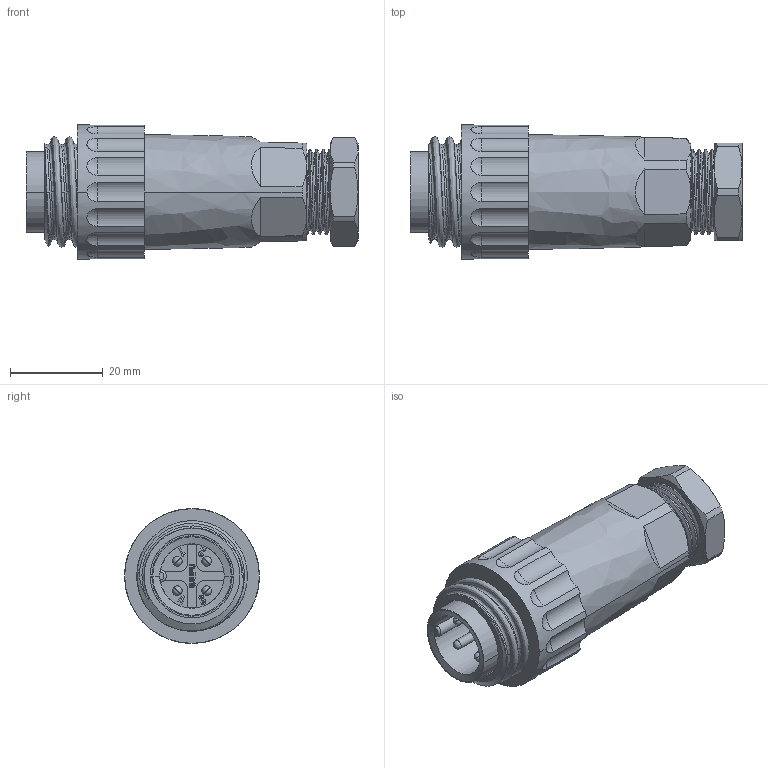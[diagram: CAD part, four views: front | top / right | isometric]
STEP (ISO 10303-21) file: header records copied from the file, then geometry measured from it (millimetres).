
FILE_DESCRIPTION((''),'2;1');
FILE_NAME('PRT0002','2015-05-09T',('Administrator'),(''),'PRO/ENGINEER BY PARAMETRIC TECHNOLOGY CORPORATION, 2009440','PRO/ENGINEER BY PARAMETRIC TECHNOLOGY CORPORATION, 2009440','');
FILE_SCHEMA(('CONFIG_CONTROL_DESIGN'));
Length unit declared in the file: millimetre
Products named in the file (1): PRT0002
Bounding box: 71.5 x 29 x 29 mm (x, y, z)
Volume: 26764.9 mm3; surface area: 13132.4 mm2
Topology: 1 solids, 1 shells, 384 faces, 1073 edges, 719 vertices
Faces by surface type: plane 161, cylinder 107, extrusion 35, cone 28, bspline 26, sphere 24, torus 3
Entity records: 17213 total; most frequent: CARTESIAN_POINT 7643, ORIENTED_EDGE 2130, DIRECTION 1770, EDGE_CURVE 1065, VERTEX_POINT 719, AXIS2_PLACEMENT_3D 624, VECTOR 522, LINE 487
